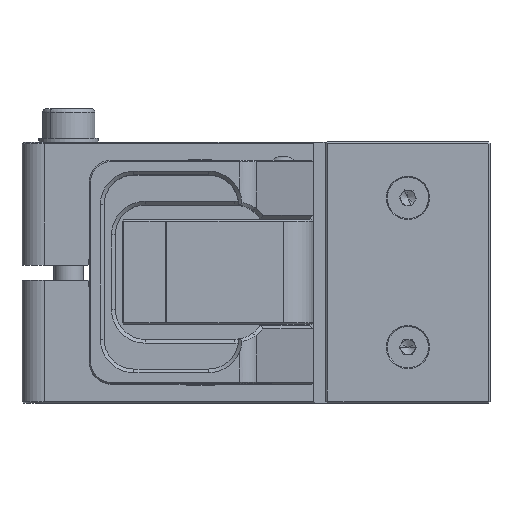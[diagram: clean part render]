
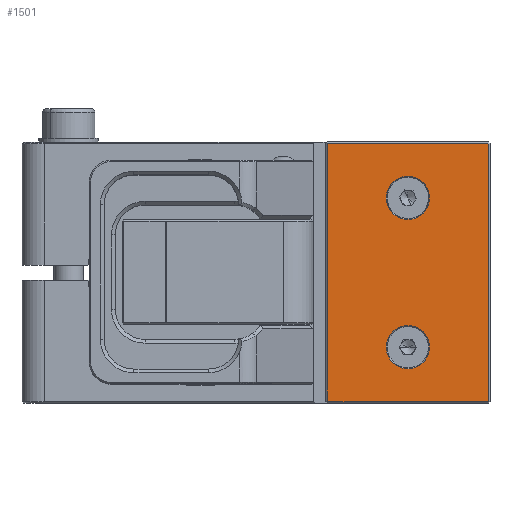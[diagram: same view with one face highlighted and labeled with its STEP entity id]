
A CAD part, top view. The second image highlights one B-rep face of the part: STEP entity #1501.
In plain terms, the highlighted planar face has unit normal (0, 0, 1).
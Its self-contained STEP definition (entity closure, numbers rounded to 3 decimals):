
#335=LINE('',#9532,#858);
#337=LINE('',#9537,#860);
#342=LINE('',#9546,#865);
#344=LINE('',#9551,#867);
#348=LINE('',#9558,#871);
#350=LINE('',#9563,#873);
#352=LINE('',#9566,#875);
#858=VECTOR('',#7718,1.);
#860=VECTOR('',#7722,1.);
#865=VECTOR('',#7729,1.);
#867=VECTOR('',#7733,1.);
#871=VECTOR('',#7739,1.);
#873=VECTOR('',#7743,1.);
#875=VECTOR('',#7747,1.);
#1501=ADVANCED_FACE('',(#2004,#2005,#2249),#1841,.T.);
#1841=PLANE('',#6907);
#2004=FACE_BOUND('',#2605,.T.);
#2005=FACE_BOUND('',#2606,.T.);
#2249=FACE_OUTER_BOUND('',#2607,.T.);
#2605=EDGE_LOOP('',(#3429,#3430));
#2606=EDGE_LOOP('',(#3431,#3432));
#2607=EDGE_LOOP('',(#3433,#3434,#3435,#3436,#3437,#3438,#3439));
#3429=ORIENTED_EDGE('',*,*,#5784,.F.);
#3430=ORIENTED_EDGE('',*,*,#5835,.F.);
#3431=ORIENTED_EDGE('',*,*,#5787,.F.);
#3432=ORIENTED_EDGE('',*,*,#5836,.F.);
#3433=ORIENTED_EDGE('',*,*,#5799,.T.);
#3434=ORIENTED_EDGE('',*,*,#5792,.T.);
#3435=ORIENTED_EDGE('',*,*,#5794,.T.);
#3436=ORIENTED_EDGE('',*,*,#5801,.T.);
#3437=ORIENTED_EDGE('',*,*,#5807,.T.);
#3438=ORIENTED_EDGE('',*,*,#5809,.T.);
#3439=ORIENTED_EDGE('',*,*,#5805,.T.);
#4998=VERTEX_POINT('',#9512);
#4999=VERTEX_POINT('',#9514);
#5000=VERTEX_POINT('',#9518);
#5001=VERTEX_POINT('',#9520);
#5002=VERTEX_POINT('',#9524);
#5006=VERTEX_POINT('',#9531);
#5008=VERTEX_POINT('',#9536);
#5010=VERTEX_POINT('',#9543);
#5013=VERTEX_POINT('',#9550);
#5014=VERTEX_POINT('',#9555);
#5017=VERTEX_POINT('',#9562);
#5784=EDGE_CURVE('',#4999,#4998,#6579,.T.);
#5787=EDGE_CURVE('',#5001,#5000,#6580,.T.);
#5792=EDGE_CURVE('',#5002,#5006,#335,.T.);
#5794=EDGE_CURVE('',#5006,#5008,#337,.T.);
#5799=EDGE_CURVE('',#5010,#5002,#342,.T.);
#5801=EDGE_CURVE('',#5008,#5013,#344,.T.);
#5805=EDGE_CURVE('',#5014,#5010,#348,.T.);
#5807=EDGE_CURVE('',#5013,#5017,#350,.T.);
#5809=EDGE_CURVE('',#5017,#5014,#352,.T.);
#5835=EDGE_CURVE('',#4998,#4999,#6581,.T.);
#5836=EDGE_CURVE('',#5000,#5001,#6582,.T.);
#6579=CIRCLE('',#6882,2.9);
#6580=CIRCLE('',#6884,2.9);
#6581=CIRCLE('',#6905,2.9);
#6582=CIRCLE('',#6906,2.9);
#6882=AXIS2_PLACEMENT_3D('',#9515,#7704,#7705);
#6884=AXIS2_PLACEMENT_3D('',#9521,#7710,#7711);
#6905=AXIS2_PLACEMENT_3D('',#9613,#7799,#7800);
#6906=AXIS2_PLACEMENT_3D('',#9614,#7801,#7802);
#6907=AXIS2_PLACEMENT_3D('',#9615,#7803,#7804);
#7704=DIRECTION('',(0.,0.,1.));
#7705=DIRECTION('',(0.,-1.,0.));
#7710=DIRECTION('',(0.,0.,1.));
#7711=DIRECTION('',(0.,-1.,0.));
#7718=DIRECTION('',(-1.,0.,0.));
#7722=DIRECTION('',(0.,-1.,0.));
#7729=DIRECTION('',(-0.707,0.707,0.));
#7733=DIRECTION('',(0.707,-0.707,0.));
#7739=DIRECTION('',(0.,1.,0.));
#7743=DIRECTION('',(1.,0.,0.));
#7747=DIRECTION('',(0.707,0.707,0.));
#7799=DIRECTION('',(0.,0.,1.));
#7800=DIRECTION('',(0.,-1.,0.));
#7801=DIRECTION('',(0.,0.,1.));
#7802=DIRECTION('',(0.,-1.,0.));
#7803=DIRECTION('',(0.,0.,1.));
#7804=DIRECTION('',(0.,-1.,0.));
#9512=CARTESIAN_POINT('',(27.7,12.9,84.328));
#9514=CARTESIAN_POINT('',(27.7,7.1,84.328));
#9515=CARTESIAN_POINT('',(27.7,10.,84.328));
#9518=CARTESIAN_POINT('',(27.7,-7.1,84.328));
#9520=CARTESIAN_POINT('',(27.7,-12.9,84.328));
#9521=CARTESIAN_POINT('',(27.7,-10.,84.328));
#9524=CARTESIAN_POINT('',(38.417,17.3,84.328));
#9531=CARTESIAN_POINT('',(16.9,17.3,84.328));
#9532=CARTESIAN_POINT('',(16.9,17.3,84.328));
#9536=CARTESIAN_POINT('',(16.9,-17.217,84.328));
#9537=CARTESIAN_POINT('',(16.9,-17.3,84.328));
#9543=CARTESIAN_POINT('',(38.5,17.217,84.328));
#9546=CARTESIAN_POINT('',(41.709,14.009,84.328));
#9550=CARTESIAN_POINT('',(16.983,-17.3,84.328));
#9551=CARTESIAN_POINT('',(13.691,-14.009,84.328));
#9555=CARTESIAN_POINT('',(38.5,-17.217,84.328));
#9558=CARTESIAN_POINT('',(38.5,17.3,84.328));
#9562=CARTESIAN_POINT('',(38.417,-17.3,84.328));
#9563=CARTESIAN_POINT('',(38.5,-17.3,84.328));
#9566=CARTESIAN_POINT('',(41.709,-14.009,84.328));
#9613=CARTESIAN_POINT('',(27.7,10.,84.328));
#9614=CARTESIAN_POINT('',(27.7,-10.,84.328));
#9615=CARTESIAN_POINT('',(27.7,0.,84.328));
